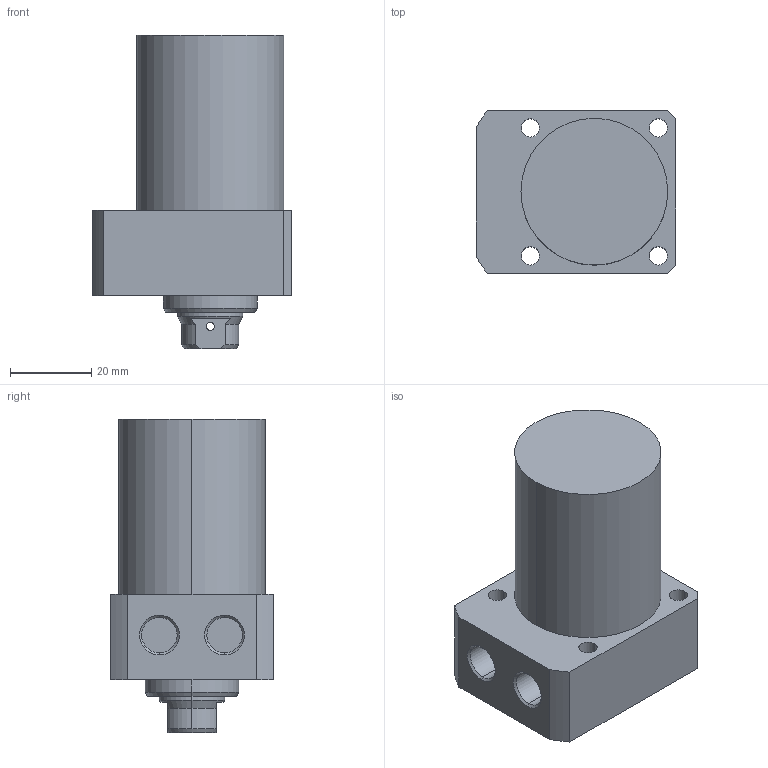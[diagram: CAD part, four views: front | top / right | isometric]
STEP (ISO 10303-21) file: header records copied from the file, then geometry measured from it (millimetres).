
FILE_DESCRIPTION (( 'STEP AP203' ), '1' );
FILE_NAME ('CLLR-036CB-035.STEP', '2019-12-20T00:23:48', ( '' ), ( '' ), 'SwSTEP 2.0', 'SolidWorks 2015', '' );
FILE_SCHEMA (( 'CONFIG_CONTROL_DESIGN' ));
Length unit declared in the file: millimetre
Products named in the file (1): CLLR-036CB-035
Bounding box: 49 x 40 x 77 mm (x, y, z)
Volume: 84450 mm3; surface area: 14975.6 mm2
Topology: 1 solids, 1 shells, 67 faces, 161 edges, 102 vertices
Faces by surface type: cylinder 33, plane 19, cone 15
Entity records: 2131 total; most frequent: CARTESIAN_POINT 429, DIRECTION 360, ORIENTED_EDGE 318, EDGE_CURVE 159, AXIS2_PLACEMENT_3D 145, VERTEX_POINT 102, EDGE_LOOP 87, CIRCLE 77
